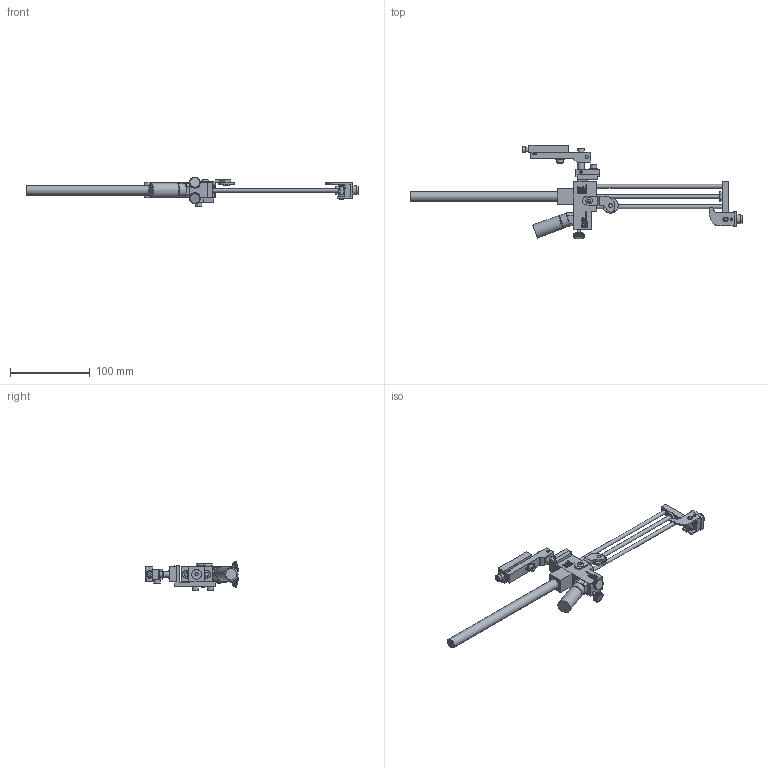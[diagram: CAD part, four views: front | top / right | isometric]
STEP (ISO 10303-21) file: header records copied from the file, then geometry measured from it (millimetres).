
FILE_DESCRIPTION((''),'2;1');
FILE_NAME('C:\Documents and Settings\Ron\My Documents\Inventor\Sprinter Drawing\Machines in Inventor\Model 44\Dot\3-eight\Ext Str\E4\Brkt\Ext\Model 44 E4 .375 dia dot Ext w Brkt.stp','2009-01-26T12:01:25',('Ron'),(''),'Autodesk Inventor 2008','Autodesk Inventor 2008','');
FILE_SCHEMA(('AUTOMOTIVE_DESIGN { 1 0 10303 214 1 1 1 1 }'));
Length unit declared in the file: inch
Products named in the file (1): Model 44 E4 .375 dia dot Ext w Brkt
Bounding box: 415.06 x 117.12 x 36.82 mm (x, y, z)
Volume: 121537.3 mm3; surface area: 59533.5 mm2
Topology: 28 solids, 28 shells, 6212 faces, 15420 edges, 9538 vertices
Faces by surface type: plane 4367, bspline 1320, cylinder 471, cone 48, torus 6
Full cylindrical faces by diameter (mm): 3.175 x4, 3.302 x1, 3.962 x1, 4.064 x7, 4.166 x1, 4.699 x1, 4.75 x4, 4.775 x1, 4.826 x7, 5.144 x1, 5.156 x5, 5.207 x2, 5.41 x2, 6.096 x1, 6.274 x2, 7.239 x1, 7.62 x1, 7.925 x7, 7.938 x1, 8.128 x1, 9.017 x1, 9.525 x3, 10.312 x4, 10.922 x1, 11.036 x1, 11.303 x1, 11.938 x2, 12.522 x1, 14.478 x1, 16.256 x1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
Entity records: 197811 total; most frequent: CARTESIAN_POINT 54140, ORIENTED_EDGE 30388, DIRECTION 23633, EDGE_CURVE 15194, VECTOR 11395, LINE 11395, VERTEX_POINT 9473, EDGE_LOOP 6777
